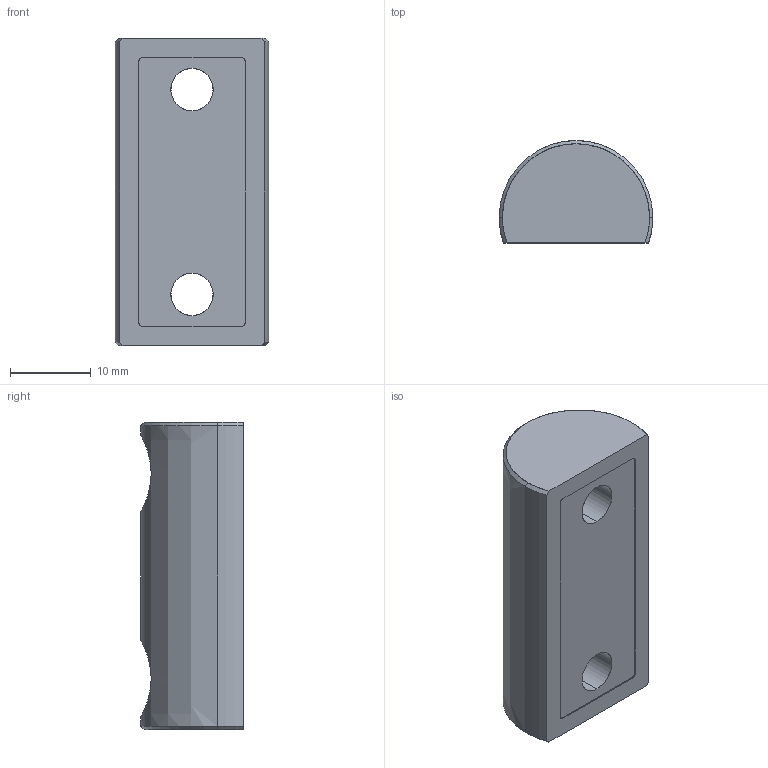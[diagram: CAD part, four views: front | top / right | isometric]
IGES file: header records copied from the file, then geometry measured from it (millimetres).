
Start section: SolidWorks IGES file using analytic representation for surfaces
Global section: file name: D:\Solid_parts\MECHeDESIGN\Bal-Tec\Catalog 105-A\Distribution\IGES\750-TCR-CB.IGS; native system: SolidWorks 2005 by SolidWorks Corporation; preprocessor: SolidWorks 2005 by SolidWorks Corporation; author: rvillegas; date: 061205.190550; units: inch
Bounding box: 19.05 x 12.7 x 38.1 mm (x, y, z)
Surface area: 2883.6 mm2 (no closed solid volume)
Topology: 0 solids, 0 shells, 31 faces, 518 edges, 518 vertices
Faces by surface type: revolution 21, bspline 10
